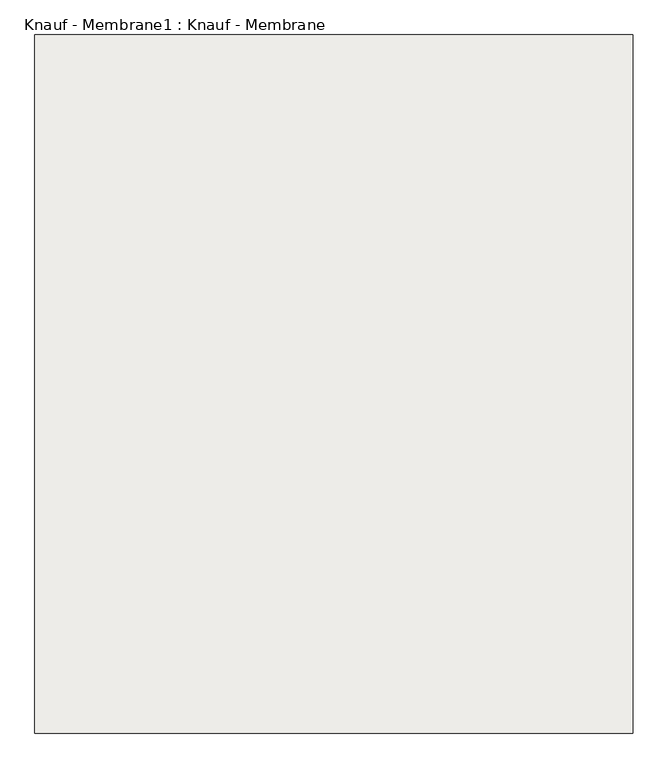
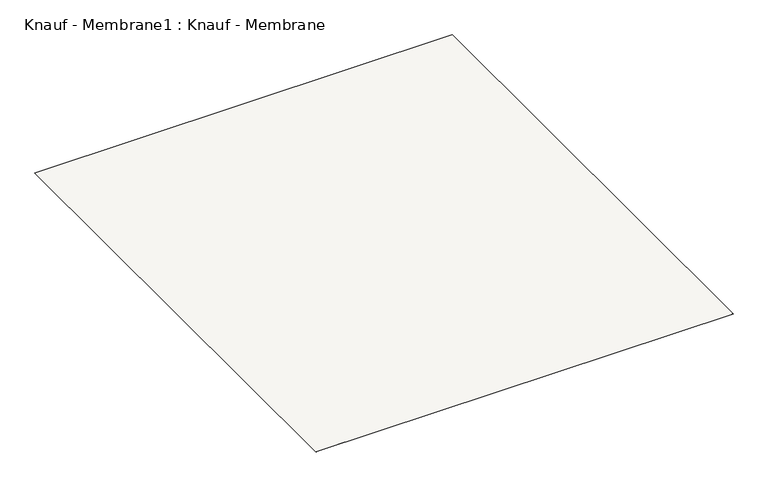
"""IFC4 building model written with IfcOpenShell, lengths in millimetres: slab geometry, Knauf - Membrane1 : Knauf - Membrane."""

from ifc_helpers import new_model, si_unit, frame, origin, place, context, project, spatial, polyline, outline, extrude, source, transform, mapped, element, save


def knauf_membrane1_knauf_membrane_c0edebaf(model_context):
    return source(origin(), model_context, "Body", "SweptSolid", [
        extrude(outline(polyline([(20416.285179, 16926.9464372), (20416.285179, 15176.9464372), (18916.285179, 15176.9464372), (18916.285179, 16926.9464372), (20416.285179, 16926.9464372)])), frame((0.0, 0.0, -31.0), z_axis=(0.0, 0.0, 1.0), x_axis=(1.0, 0.0, 0.0)), (0.0, 0.0, 1.0), 1.0),
    ])


if __name__ == "__main__":
    model = new_model("IFC4")
    model_context = context("Model", 3, world=origin())
    ifc_project = project(units=[si_unit("LENGTHUNIT", "METRE", prefix="MILLI")], contexts=[model_context])
    site = spatial("IfcSite", under=ifc_project)
    building = spatial("IfcBuilding", under=site)
    placement = place(None, origin())
    knauf_membrane1_knauf_membrane_shape = knauf_membrane1_knauf_membrane_c0edebaf(model_context)
    element("IfcSlab", 1, ObjectType="Knauf - Membrane1 : Knauf - Membrane", at=placement, inside=building, context=model_context, shape_type="MappedRepresentation", body=[
        mapped(knauf_membrane1_knauf_membrane_shape, transform((0.0, 0.0, 0.0), x_axis=(1.0, 0.0, 0.0), y_axis=(0.0, 1.0, 0.0), z_axis=(0.0, 0.0, 1.0))),
    ])
    save(model, "model.ifc")
